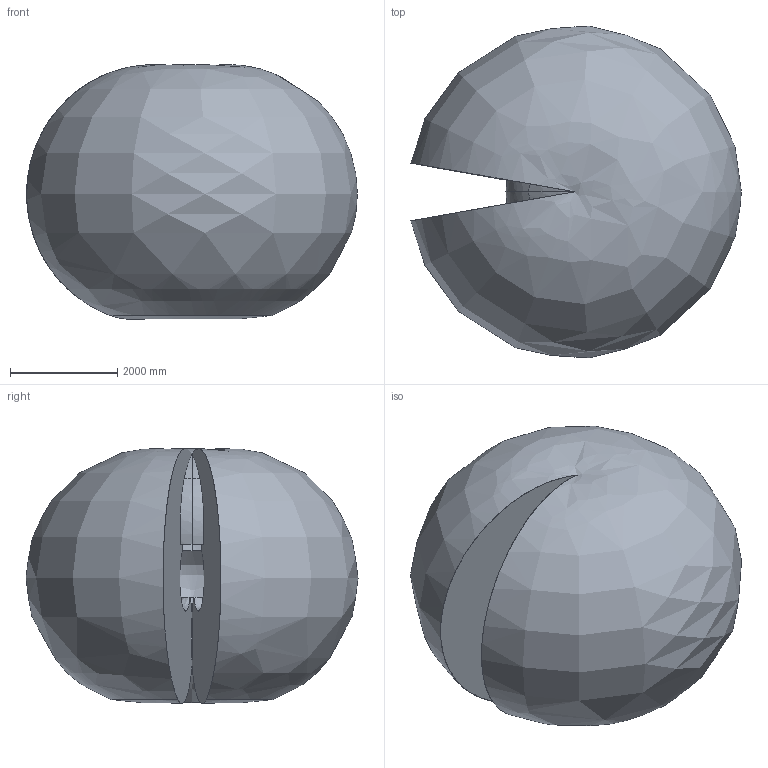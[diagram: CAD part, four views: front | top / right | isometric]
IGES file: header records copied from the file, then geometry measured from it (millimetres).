
Start section: SolidWorks IGES file using analytic representation for surfaces
Global section: file name: C:\DATA\SAP_DOC\LW\IRB 6730S\IRB6730S_270kg-310_OC_01_SW_J\export\IRB6730S_270kg-310_OC_01_IGES_J\IRB6730S_270kg-310_OC_00_Working-envelope.igs; native system: SolidWorks 2024; preprocessor: SolidWorks 2024; author: SEJOVAS3; date: 260526.123634; units: millimetre
Bounding box: 6161.1 x 6184.96 x 4745.54 mm (x, y, z)
Surface area: 142035171.1 mm2 (no closed solid volume)
Topology: 0 solids, 0 shells, 22 faces, 692 edges, 689 vertices
Faces by surface type: bspline 20, revolution 2
